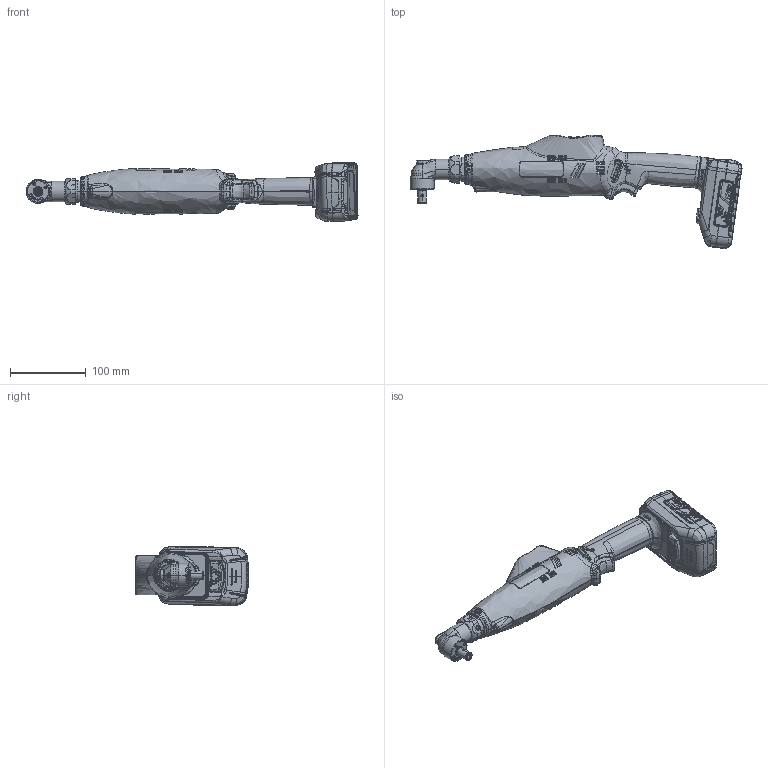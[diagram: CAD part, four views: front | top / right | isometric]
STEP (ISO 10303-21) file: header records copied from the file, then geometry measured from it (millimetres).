
FILE_DESCRIPTION (( 'STEP AP203' ), '1' );
FILE_NAME ('NRA-10H2 & 16H2.STEP', '2024-08-19T07:43:09', ( '' ), ( '' ), 'SwSTEP 2.0', 'SolidWorks 2021', '' );
FILE_SCHEMA (( 'CONFIG_CONTROL_DESIGN' ));
Products named in the file (1): NRA-10H2 & 16H2
Bounding box: 437.49 x 149.26 x 78.01 mm (x, y, z)
Surface area: 130734.4 mm2 (no closed solid volume)
Topology: 0 solids, 397 shells, 3133 faces, 12635 edges, 9600 vertices
Faces by surface type: cylinder 1063, bspline 959, plane 789, torus 152, cone 148, sphere 22
Entity records: 207548 total; most frequent: CARTESIAN_POINT 116388, ORIENTED_EDGE 17730, DIRECTION 16148, EDGE_CURVE 12568, VERTEX_POINT 9598, AXIS2_PLACEMENT_3D 5814, VECTOR 4520, LINE 4520
